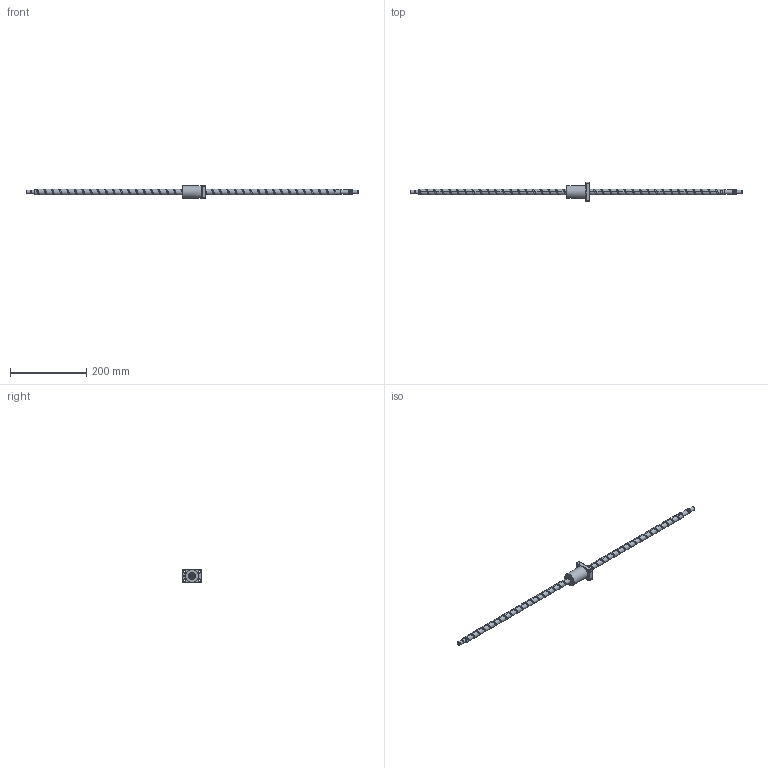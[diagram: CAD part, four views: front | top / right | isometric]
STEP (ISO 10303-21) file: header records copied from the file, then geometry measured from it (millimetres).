
FILE_DESCRIPTION (( 'STEP AP203' ), '1' );
FILE_NAME ('XSVR01520A1DGC5-871-P1.step', '2024-06-03T05:37:33', ( '' ), ( '' ), 'SwSTEP 2.0', 'SolidWorks 2022', '' );
FILE_SCHEMA (( 'CONFIG_CONTROL_DESIGN' ));
Length unit declared in the file: millimetre
Products named in the file (1): XSVR01520A1DGC5-871-P1
Bounding box: 871 x 50 x 34 mm (x, y, z)
Volume: 188262.9 mm3; surface area: 56671.2 mm2
Topology: 2 solids, 2 shells, 170 faces, 464 edges, 304 vertices
Faces by surface type: cylinder 93, plane 43, cone 15, bspline 10, torus 9
Full cylindrical faces by diameter (mm): 4 x1, 4.2 x15, 5 x6, 5.5 x4, 9.5 x4, 9.6 x1, 10 x3, 12 x9, 15 x40, 17 x1, 34 x1
Entity records: 22650 total; most frequent: CARTESIAN_POINT 20522, ORIENTED_EDGE 410, DIRECTION 391, EDGE_CURVE 205, AXIS2_PLACEMENT_3D 168, EDGE_LOOP 153, VERTEX_POINT 150, FACE_OUTER_BOUND 120
